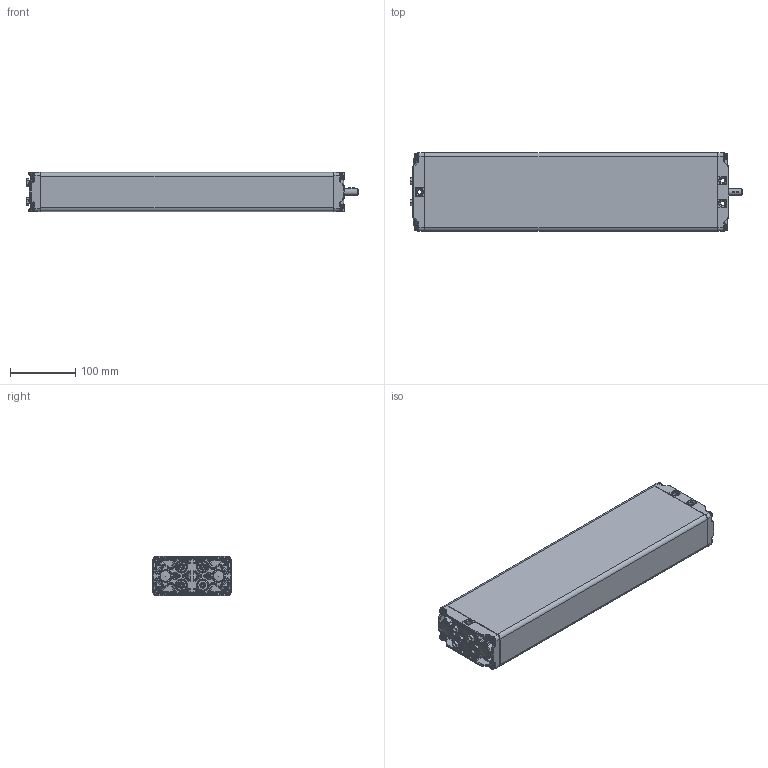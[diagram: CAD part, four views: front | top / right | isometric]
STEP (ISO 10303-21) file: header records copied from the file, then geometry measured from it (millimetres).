
FILE_DESCRIPTION(/* description */ ('Unknown'),/* implementation_level */ '2;1');
FILE_NAME(/* name */ '102.20023 Pumpe PB 3830 W',/* time_stamp */ '2016-10-07T16:15:55+02:00',/* author */ ('Unknown'),/* organization */ ('Unknown'),/* preprocessor_version */ 'ST-DEVELOPER v16.7',/* originating_system */ 'DEX',/* authorisation */ $);
FILE_SCHEMA (('AUTOMOTIVE_DESIGN {1 0 10303 214 3 1 1}'));
Products named in the file (15): 102.20023; 115.00033; 125.00045; 115.00008; 142.00021; 125.00021; 142.00013; 125.00143; 115.00140; 126.00006; 122.00040; 119.00043; 126.00005; 142.00057; 142.00110
Assembly tree (25 placements, depth 3):
  102.20023
    115.00033  x3
      125.00045
      115.00008
      142.00021
      125.00021
    142.00013  x8
    125.00045
    125.00143
    115.00140
      126.00006
      122.00040
    119.00043
    126.00005
    142.00057
    142.00110  x2
Bounding box: 509.47 x 120 x 60.3 mm (x, y, z)
Volume: 641845 mm3; surface area: 433060.5 mm2
Topology: 26 solids, 26 shells, 2486 faces, 5889 edges, 3383 vertices
Faces by surface type: bspline 704, plane 656, cylinder 557, cone 339, torus 171, sphere 59
Full cylindrical faces by diameter (mm): 3.5 x4, 4.1 x3, 4.2 x4, 5 x8, 6.917 x8, 8 x7, 9.8 x8, 10 x3, 10.4 x1, 14 x1, 14.4 x4, 15.8 x2, 17.3 x4, 17.9 x8, 18 x3, 19 x1, 21.2 x2
Entity records: 97701 total; most frequent: CARTESIAN_POINT 54084, ORIENTED_EDGE 8246, DIRECTION 6581, EDGE_CURVE 4123, AXIS2_PLACEMENT_3D 2648, VERTEX_POINT 2525, FACE_BOUND 1992, EDGE_LOOP 1991
